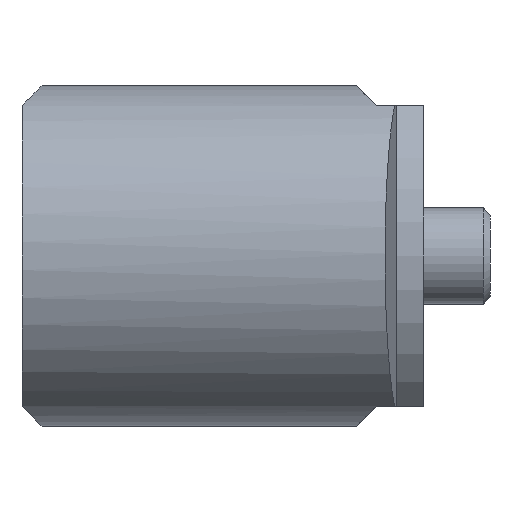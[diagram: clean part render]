
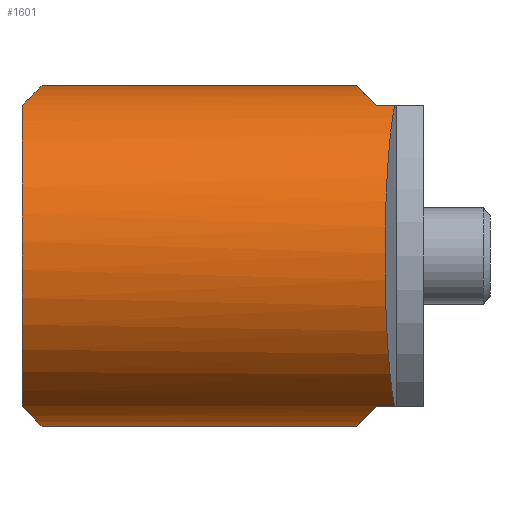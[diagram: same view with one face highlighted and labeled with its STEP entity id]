
A CAD part, left-side view. The second image highlights one B-rep face of the part: STEP entity #1601.
In plain terms, the highlighted cylindrical face has radius 12.75 mm (diameter 25.5 mm), a partial arc.
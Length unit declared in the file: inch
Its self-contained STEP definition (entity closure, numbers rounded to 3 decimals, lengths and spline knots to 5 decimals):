
#33=ELLIPSE('',#1715,0.70989,0.50197);
#34=ELLIPSE('',#1718,0.70989,0.50197);
#35=ELLIPSE('',#1721,0.70989,0.50197);
#36=ELLIPSE('',#1723,0.70989,0.50197);
#37=ELLIPSE('',#1727,0.50473,0.50197);
#123=FACE_OUTER_BOUND('',#213,.T.);
#213=EDGE_LOOP('',(#1069,#1070,#1071,#1072,#1073,#1074,#1075,#1076,#1077,
#1078));
#317=LINE('',#2473,#413);
#330=LINE('',#2503,#426);
#339=LINE('',#2528,#435);
#340=LINE('',#2530,#436);
#413=VECTOR('',#1952,0.3937);
#426=VECTOR('',#1971,0.3937);
#435=VECTOR('',#1998,0.3937);
#436=VECTOR('',#2001,0.3937);
#513=CIRCLE('',#1729,0.50197);
#631=VERTEX_POINT('',#2463);
#632=VERTEX_POINT('',#2464);
#635=VERTEX_POINT('',#2472);
#640=VERTEX_POINT('',#2484);
#641=VERTEX_POINT('',#2485);
#648=VERTEX_POINT('',#2500);
#649=VERTEX_POINT('',#2502);
#651=VERTEX_POINT('',#2508);
#653=VERTEX_POINT('',#2514);
#654=VERTEX_POINT('',#2515);
#797=EDGE_CURVE('',#631,#632,#33,.T.);
#801=EDGE_CURVE('',#632,#635,#317,.T.);
#807=EDGE_CURVE('',#640,#641,#34,.T.);
#815=EDGE_CURVE('',#649,#648,#330,.T.);
#818=EDGE_CURVE('',#648,#651,#35,.T.);
#821=EDGE_CURVE('',#653,#654,#36,.T.);
#827=EDGE_CURVE('',#635,#649,#37,.T.);
#828=EDGE_CURVE('',#651,#653,#339,.T.);
#829=EDGE_CURVE('',#640,#654,#513,.T.);
#830=EDGE_CURVE('',#631,#641,#340,.T.);
#1069=ORIENTED_EDGE('',*,*,#797,.T.);
#1070=ORIENTED_EDGE('',*,*,#801,.T.);
#1071=ORIENTED_EDGE('',*,*,#827,.T.);
#1072=ORIENTED_EDGE('',*,*,#815,.T.);
#1073=ORIENTED_EDGE('',*,*,#818,.T.);
#1074=ORIENTED_EDGE('',*,*,#828,.T.);
#1075=ORIENTED_EDGE('',*,*,#821,.T.);
#1076=ORIENTED_EDGE('',*,*,#829,.F.);
#1077=ORIENTED_EDGE('',*,*,#807,.T.);
#1078=ORIENTED_EDGE('',*,*,#830,.F.);
#1467=CYLINDRICAL_SURFACE('',#1728,0.50197);
#1601=ADVANCED_FACE('',(#123),#1467,.T.);
#1715=AXIS2_PLACEMENT_3D('',#2465,#1945,#1946);
#1718=AXIS2_PLACEMENT_3D('',#2486,#1960,#1961);
#1721=AXIS2_PLACEMENT_3D('',#2509,#1976,#1977);
#1723=AXIS2_PLACEMENT_3D('',#2516,#1982,#1983);
#1727=AXIS2_PLACEMENT_3D('',#2526,#1994,#1995);
#1728=AXIS2_PLACEMENT_3D('',#2527,#1996,#1997);
#1729=AXIS2_PLACEMENT_3D('',#2529,#1999,#2000);
#1945=DIRECTION('center_axis',(0.,0.707,0.707));
#1946=DIRECTION('ref_axis',(0.,-0.707,0.707));
#1952=DIRECTION('',(0.,-1.,0.));
#1960=DIRECTION('center_axis',(0.,-0.707,0.707));
#1961=DIRECTION('ref_axis',(0.,0.707,0.707));
#1971=DIRECTION('',(0.,1.,0.));
#1976=DIRECTION('center_axis',(0.,0.707,-0.707));
#1977=DIRECTION('ref_axis',(0.,0.707,0.707));
#1982=DIRECTION('center_axis',(0.,-0.707,-0.707));
#1983=DIRECTION('ref_axis',(0.,-0.707,0.707));
#1994=DIRECTION('center_axis',(0.105,0.995,0.));
#1995=DIRECTION('ref_axis',(-0.995,0.105,0.));
#1996=DIRECTION('center_axis',(0.,-1.,0.));
#1997=DIRECTION('ref_axis',(0.,0.,1.));
#1998=DIRECTION('',(0.,1.,0.));
#1999=DIRECTION('center_axis',(0.,1.,0.));
#2000=DIRECTION('ref_axis',(0.,0.,1.));
#2001=DIRECTION('',(0.,1.,0.));
#2463=CARTESIAN_POINT('',(-0.93589,-0.50139,-0.50197));
#2464=CARTESIAN_POINT('',(-1.17211,-0.56045,-0.44291));
#2465=CARTESIAN_POINT('Origin',(-0.93589,-1.00336,0.));
#2472=CARTESIAN_POINT('',(-1.17211,-0.61392,-0.44291));
#2473=CARTESIAN_POINT('',(-1.17211,0.48286,-0.44291));
#2484=CARTESIAN_POINT('',(-1.17211,0.48286,-0.44291));
#2485=CARTESIAN_POINT('',(-0.93589,0.4238,-0.50197));
#2486=CARTESIAN_POINT('Origin',(-0.93589,0.92577,0.));
#2500=CARTESIAN_POINT('',(-1.17211,-0.56045,0.44291));
#2502=CARTESIAN_POINT('',(-1.17211,-0.61392,0.44291));
#2503=CARTESIAN_POINT('',(-1.17211,0.48286,0.44291));
#2508=CARTESIAN_POINT('',(-0.93589,-0.50139,0.50197));
#2509=CARTESIAN_POINT('Origin',(-0.93589,-1.00336,0.));
#2514=CARTESIAN_POINT('',(-0.93589,0.4238,0.50197));
#2515=CARTESIAN_POINT('',(-1.17211,0.48286,0.44291));
#2516=CARTESIAN_POINT('Origin',(-0.93589,0.92577,0.));
#2526=CARTESIAN_POINT('Origin',(-0.93589,-0.63874,0.));
#2527=CARTESIAN_POINT('Origin',(-0.93589,0.48286,0.));
#2528=CARTESIAN_POINT('',(-0.93589,0.48286,0.50197));
#2529=CARTESIAN_POINT('Origin',(-0.93589,0.48286,0.));
#2530=CARTESIAN_POINT('',(-0.93589,0.48286,-0.50197));
